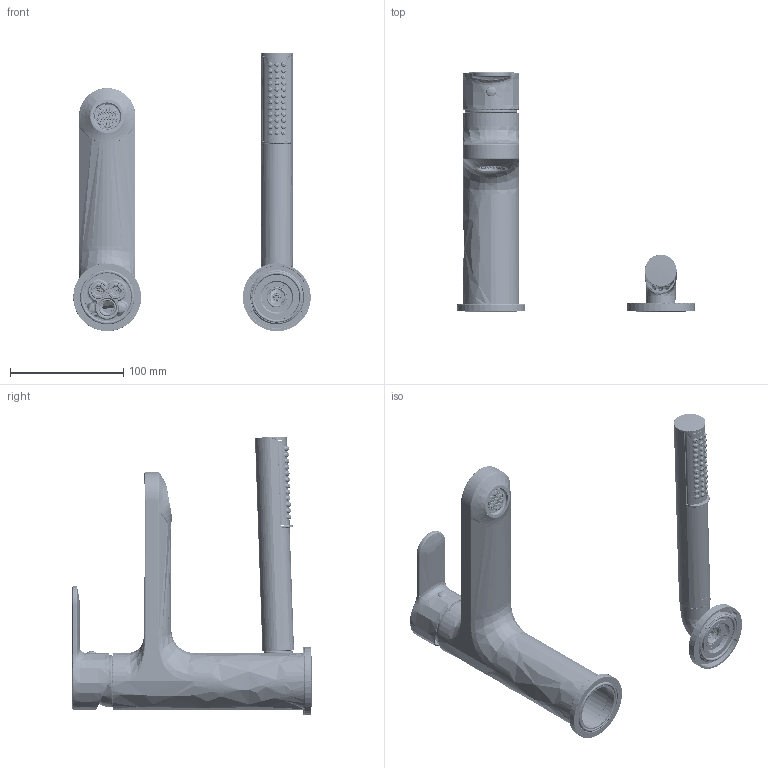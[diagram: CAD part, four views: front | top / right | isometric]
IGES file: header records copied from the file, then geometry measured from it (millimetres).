
Start section: SolidWorks IGES file using analytic representation for surfaces
Global section: file name: C:\Users\ccai\Desktop\CeliaC\Projects\0920-ADHOC-02495&02496 Neutral File#3\sku_in02series_igs\DUP_IN02SERIES.IGS; native system: SolidWorks 2023; preprocessor: SolidWorks 2023; author: ccai; date: 240914.151804; units: millimetre
Bounding box: 210 x 211.94 x 246.17 mm (x, y, z)
Surface area: 254039.8 mm2 (no closed solid volume)
Topology: 0 solids, 0 shells, 10798 faces, 103207 edges, 103592 vertices
Faces by surface type: bspline 7689, revolution 3109
